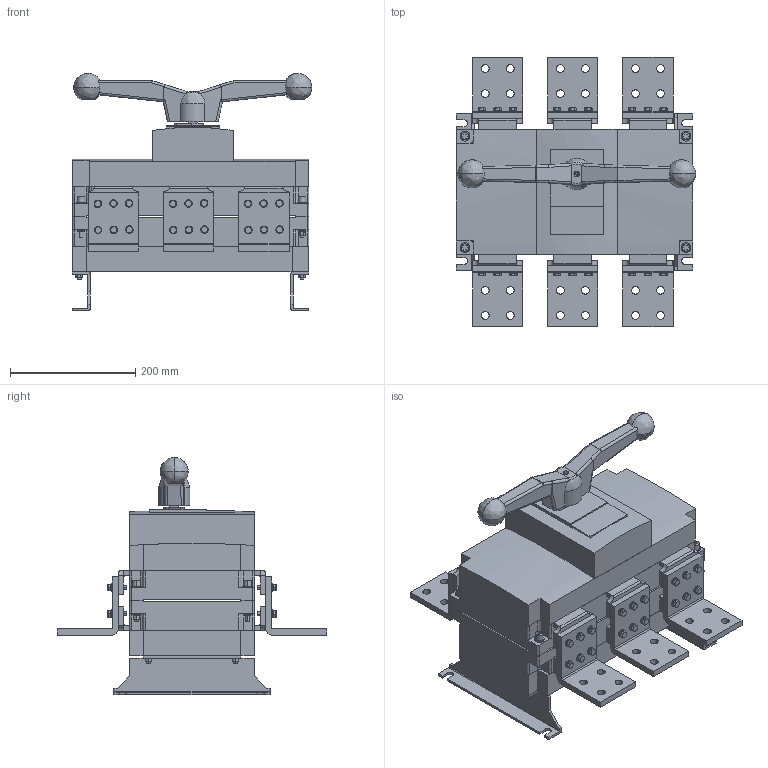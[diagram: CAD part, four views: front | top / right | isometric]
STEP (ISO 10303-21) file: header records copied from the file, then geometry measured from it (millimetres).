
FILE_DESCRIPTION((''),'2;1');
FILE_NAME('NH40-2000-3_3P_202411_ASM','2025-10-14T',('zhuanghy'),(''),'CREO PARAMETRIC BY PTC INC, 2018070','CREO PARAMETRIC BY PTC INC, 2018070','');
FILE_SCHEMA(('AUTOMOTIVE_DESIGN { 1 0 10303 214 1 1 1 1 }'));
Length unit declared in the file: millimetre
Products named in the file (195): BANNH40-2000-3_8_1_1_1_1_1_1_1_; DZNH40-2000-3_6_1_1_1_1_1_1_1_1; AZBNH40-2000-3_7_1_1_1_1_1_1_1_; LJBNH40-2000-3_2_1_1_1_1_1_1_1_; SGNH40-2000-3_6_1_1_1_1_1_1_AF1; FZNH40-2000-3_1_1_1_1_1_1_1_AF1; ZSJNH40-2000-3_1_1_1_1_1_1__AF0; PDQ8_3_1_1_1_1_1_1_1_1; PDQ6_1_1_1_1_1_1_1_1_1; TDQ6_1_1_1_1_1_1_1_1_1; LSM6_6_1_1_1_1_1_1_1_1; NLFLSM6_10_1_1_1_1_1_1_1_1; LMM6_2_1_1_1_1_1_1_1_1; NH40-2000-3_ASM_8_ASM_1_ASM_AF1_ASM; CTNH40-2000-3_7_2_1_1_1_1_1_1_1; NH40-2000-3_3P_202103_ASM_1_AF1_ASM; LSM6_14_1_1_1_1_1_AF0_1; NH40-1000-3150_ASM_7_ASM_1__AF0_ASM; NH40-1000_3150_202107_ASM_1_AF0_ASM; NH40-2500-3_3P_202209_5_ASM_AF1_ASM; NH40-2000-3W_3P_202312_ASM__AF1_ASM; NH40-2000-3W_3P_202405_ASM__AF1_ASM; NH40-2000-3W_3P_202407_ASM__AF1_ASM; BANNH40-2000-3_8_1_1_1_1_1__AF0; BANNH40-2000-3_8_1_1_1_1_1__AF1; DZNH40-2000-3_6_1_1_1_1_1_1_AF0; AZBNH40-2000-3_7_1_1_1_1_1__AF0; AZBNH40-2000-3_7_1_1_1_1_1__AF1; LJBNH40-2000-3_2_1_1_1_1_1__AF0; LJBNH40-2000-3_2_1_1_1_1_1__AF1; LJBNH40-2000-3_2_1_1_1_1_1__AF2; LJBNH40-2000-3_2_1_1_1_1_1__AF3; LJBNH40-2000-3_2_1_1_1_1_1__AF4; LJBNH40-2000-3_2_1_1_1_1_1__AF5; LJBNH40-2000-3_2_1_1_1_1_1__AF6; LJBNH40-2000-3_2_1_1_1_1_1__AF7; SGNH40-2000-3_6_1_1_1_1_1_1_AF0; FZNH40-2000-3_1_1_1_1_1_1_1_AF0; ZSJNH40-2000-3_1_1_1_1_1_1_1__1; PDQ8_3_1_1_1_1_1_1_AF0_1_1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
Assembly tree (338 placements, depth 11):
  NH40-2000-3_3P_202411_ASM
    ASM0001_ASM_1_ASM
      NH40-2000-3W_3P_202407_ASM__AF1_ASM
        NH40-2000-3W_3P_202405_ASM__AF1_ASM
          NH40-2000-3W_3P_202312_ASM__AF1_ASM
            NH40-2500-3_3P_202209_5_ASM_AF1_ASM
              NH40-2000-3_3P_202103_ASM_1_AF1_ASM
                NH40-2000-3_ASM_8_ASM_1_ASM_AF1_ASM
                  BANNH40-2000-3_8_1_1_1_1_1_1_1_  x2
                  DZNH40-2000-3_6_1_1_1_1_1_1_1_1
                  AZBNH40-2000-3_7_1_1_1_1_1_1_1_  x2
                  LJBNH40-2000-3_2_1_1_1_1_1_1_1_  x8
                  SGNH40-2000-3_6_1_1_1_1_1_1_AF1
                  FZNH40-2000-3_1_1_1_1_1_1_1_AF1
                  ZSJNH40-2000-3_1_1_1_1_1_1__AF0
                  PDQ8_3_1_1_1_1_1_1_1_1  x4
                  PDQ6_1_1_1_1_1_1_1_1_1  x40
                  TDQ6_1_1_1_1_1_1_1_1_1  x40
                  LSM6_6_1_1_1_1_1_1_1_1  x41
                  NLFLSM6_10_1_1_1_1_1_1_1_1  x4
                  LMM6_2_1_1_1_1_1_1_1_1  x7
                CTNH40-2000-3_7_2_1_1_1_1_1_1_1  x6
              NH40-1000_3150_202107_ASM_1_AF0_ASM
                NH40-1000-3150_ASM_7_ASM_1__AF0_ASM
                  LSM6_14_1_1_1_1_1_AF0_1
      NH40-2000-3-4_202411_ASM_1_ASM
        NH40-2000-3_3P_202407_ASM_1_ASM_ASM
          NH40-2000-3W_3P_202407_ASM__AF0_ASM
            NH40-2000-3W_3P_202405_ASM__AF0_ASM
              NH40-2000-3W_3P_202312_ASM__AF0_ASM
                NH40-2500-3_3P_202209_5_ASM_AF0_ASM
                  NH40-2000-3_3P_202103_ASM_1_AF0_ASM
                  NH40-1000_3150_202107_ASM_1_A_2_ASM
                  PRT0001_1_1_1_1_1_1_1
Bounding box: 382.5 x 430 x 379 mm (x, y, z)
Volume: 16020666.3 mm3; surface area: 1690986.7 mm2
Topology: 161 solids, 163 shells, 2335 faces, 5782 edges, 3813 vertices
Faces by surface type: plane 1119, cylinder 861, cone 336, bspline 10, sphere 4, extrusion 3, torus 2
Entity records: 24784 total; most frequent: CARTESIAN_POINT 4795, DIRECTION 3844, ORIENTED_EDGE 2254, AXIS2_PLACEMENT_3D 1595, EDGE_CURVE 1128, VERTEX_POINT 745, PROPERTY_DEFINITION 710, REPRESENTATION 692
